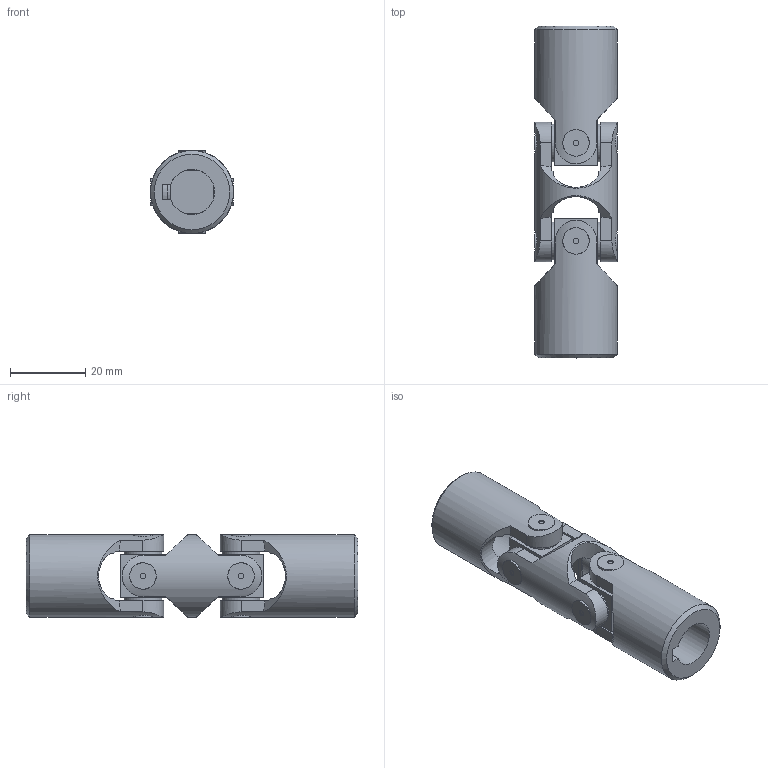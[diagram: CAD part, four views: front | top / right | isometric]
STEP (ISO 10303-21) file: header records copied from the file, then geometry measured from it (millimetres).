
FILE_DESCRIPTION(/* description */ (''),/* implementation_level */ '2;1');
FILE_NAME(/* name */ '\\SRV2016\Societa\Stefano\Disegni 3D\00Catalogo 3D\02Doppi GD-GBD\SGBD121C.stp',/* time_stamp */ '2021-11-22T17:05:59+01:00',/* author */ ('acquisti'),/* organization */ (''),/* preprocessor_version */ 'ST-DEVELOPER v15.6',/* originating_system */ 'Autodesk Inventor 2015',/* authorisation */ '');
FILE_SCHEMA (('AUTOMOTIVE_DESIGN { 1 0 10303 214 3 1 1 }'));
Length unit declared in the file: millimetre
Products named in the file (5): 03G MOD; 03G SFE; 04GB MOC; 04GB MOS; Ø22_04GBD-00_SGBD1200
Assembly tree (5 placements, depth 2):
  Ø22_04GBD-00_SGBD1200
    03G MOD
    03G SFE  x2
    04GB MOC
    04GB MOS
Bounding box: 22 x 88 x 22 mm (x, y, z)
Volume: 21272.3 mm3; surface area: 11646.6 mm2
Topology: 5 solids, 5 shells, 143 faces, 330 edges, 215 vertices
Faces by surface type: plane 73, cylinder 46, cone 18, torus 6
Full cylindrical faces by diameter (mm): 1.5 x8, 10 x8, 11.5 x1, 12 x1, 22 x3
Entity records: 4456 total; most frequent: CARTESIAN_POINT 1629, ORIENTED_EDGE 558, DIRECTION 545, EDGE_CURVE 279, AXIS2_PLACEMENT_3D 239, VERTEX_POINT 195, EDGE_LOOP 172, FACE_OUTER_BOUND 129
